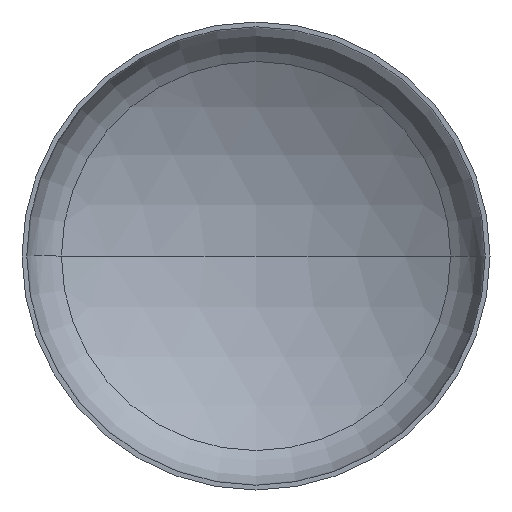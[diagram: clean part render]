
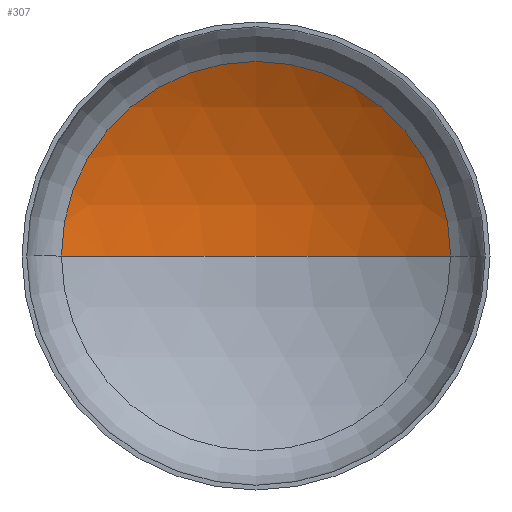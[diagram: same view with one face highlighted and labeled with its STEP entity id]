
A CAD part, front view. The second image highlights one B-rep face of the part: STEP entity #307.
In plain terms, the highlighted spherical face has radius 3040 mm.
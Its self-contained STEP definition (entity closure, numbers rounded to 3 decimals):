
#4 = AXIS2_PLACEMENT_3D ( 'NONE', #402, #255, #31 ) ;
#8 = CARTESIAN_POINT ( 'NONE',  ( -1580.057, 619.774, 0. ) ) ;
#10 = AXIS2_PLACEMENT_3D ( 'NONE', #392, #297, #185 ) ;
#17 = DIRECTION ( 'NONE',  ( 1., 0., 0. ) ) ;
#20 = CARTESIAN_POINT ( 'NONE',  ( 1580.057, 619.774, 0. ) ) ;
#28 = EDGE_LOOP ( 'NONE', ( #62, #49, #213 ) ) ;
#31 = DIRECTION ( 'NONE',  ( -1., 0., 0. ) ) ;
#32 = AXIS2_PLACEMENT_3D ( 'NONE', #264, #262, #234 ) ;
#49 = ORIENTED_EDGE ( 'NONE', *, *, #377, .T. ) ;
#62 = ORIENTED_EDGE ( 'NONE', *, *, #357, .F. ) ;
#93 = CIRCLE ( 'NONE', #132, 1580.057 ) ;
#120 = CARTESIAN_POINT ( 'NONE',  ( 0., 619.774, 0. ) ) ;
#132 = AXIS2_PLACEMENT_3D ( 'NONE', #120, #322, #17 ) ;
#142 = CARTESIAN_POINT ( 'NONE',  ( 0., 1062.657, 0. ) ) ;
#143 = SPHERICAL_SURFACE ( 'NONE', #32, 3040. ) ;
#173 = VERTEX_POINT ( 'NONE', #8 ) ;
#185 = DIRECTION ( 'NONE',  ( 1., 0., 0. ) ) ;
#213 = ORIENTED_EDGE ( 'NONE', *, *, #379, .T. ) ;
#228 = VERTEX_POINT ( 'NONE', #20 ) ;
#234 = DIRECTION ( 'NONE',  ( -1., 0., 0. ) ) ;
#255 = DIRECTION ( 'NONE',  ( 0., 0., -1. ) ) ;
#262 = DIRECTION ( 'NONE',  ( 0., 0., -1. ) ) ;
#264 = CARTESIAN_POINT ( 'NONE',  ( 0., -1977.343, 0. ) ) ;
#294 = FACE_OUTER_BOUND ( 'NONE', #28, .T. ) ;
#297 = DIRECTION ( 'NONE',  ( 0., 0., 1. ) ) ;
#307 = ADVANCED_FACE ( 'NONE', ( #294 ), #143, .F. ) ;
#322 = DIRECTION ( 'NONE',  ( 0., -1., 0. ) ) ;
#343 = CIRCLE ( 'NONE', #10, 3040. ) ;
#357 = EDGE_CURVE ( 'NONE', #364, #173, #343, .T. ) ;
#364 = VERTEX_POINT ( 'NONE', #142 ) ;
#377 = EDGE_CURVE ( 'NONE', #364, #228, #406, .T. ) ;
#379 = EDGE_CURVE ( 'NONE', #228, #173, #93, .T. ) ;
#392 = CARTESIAN_POINT ( 'NONE',  ( 0., -1977.343, 0. ) ) ;
#402 = CARTESIAN_POINT ( 'NONE',  ( 0., -1977.343, 0. ) ) ;
#406 = CIRCLE ( 'NONE', #4, 3040. ) ;
